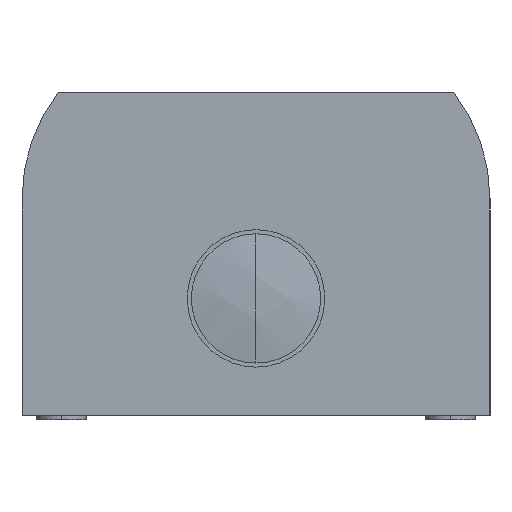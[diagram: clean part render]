
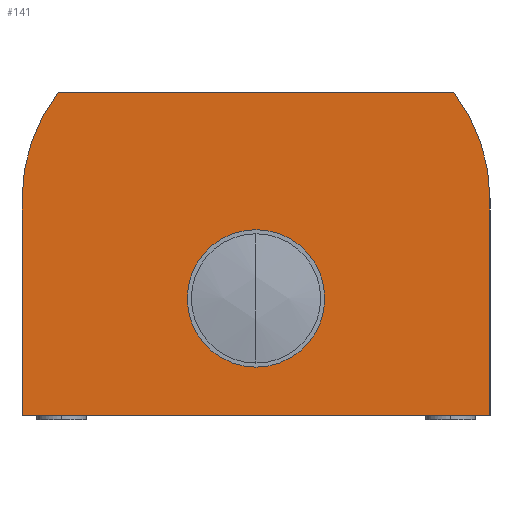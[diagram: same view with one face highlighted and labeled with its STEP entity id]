
A CAD part, left-side view. The second image highlights one B-rep face of the part: STEP entity #141.
In plain terms, the highlighted planar face has unit normal (-1, 0, 0).
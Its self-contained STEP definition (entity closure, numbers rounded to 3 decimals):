
#141 = ADVANCED_FACE( '', ( #294, #295 ), #296, .F. );
#294 = FACE_BOUND( '', #450, .T. );
#295 = FACE_OUTER_BOUND( '', #451, .T. );
#296 = PLANE( '', #452 );
#450 = EDGE_LOOP( '', ( #926, #927 ) );
#451 = EDGE_LOOP( '', ( #928, #929, #930, #931, #932, #933 ) );
#452 = AXIS2_PLACEMENT_3D( '', #934, #935, #936 );
#926 = ORIENTED_EDGE( '', *, *, #1067, .T. );
#927 = ORIENTED_EDGE( '', *, *, #958, .T. );
#928 = ORIENTED_EDGE( '', *, *, #1074, .F. );
#929 = ORIENTED_EDGE( '', *, *, #1090, .F. );
#930 = ORIENTED_EDGE( '', *, *, #1087, .F. );
#931 = ORIENTED_EDGE( '', *, *, #1084, .F. );
#932 = ORIENTED_EDGE( '', *, *, #1081, .F. );
#933 = ORIENTED_EDGE( '', *, *, #1078, .F. );
#934 = CARTESIAN_POINT( '', ( -60., 0., 0. ) );
#935 = DIRECTION( '', ( 1., 0., 0. ) );
#936 = DIRECTION( '', ( 0., 0., -1. ) );
#958 = EDGE_CURVE( '', #1107, #1111, #1113, .T. );
#1067 = EDGE_CURVE( '', #1111, #1107, #1295, .T. );
#1074 = EDGE_CURVE( '', #1304, #1305, #1306, .T. );
#1078 = EDGE_CURVE( '', #1305, #1312, #1313, .T. );
#1081 = EDGE_CURVE( '', #1312, #1317, #1318, .T. );
#1084 = EDGE_CURVE( '', #1317, #1322, #1323, .T. );
#1087 = EDGE_CURVE( '', #1322, #1327, #1328, .T. );
#1090 = EDGE_CURVE( '', #1327, #1304, #1332, .T. );
#1107 = VERTEX_POINT( '', #1351 );
#1111 = VERTEX_POINT( '', #1356 );
#1113 = CIRCLE( '', #1359, 11.75 );
#1295 = CIRCLE( '', #1585, 11.75 );
#1304 = VERTEX_POINT( '', #1594 );
#1305 = VERTEX_POINT( '', #1595 );
#1306 = CIRCLE( '', #1596, 30. );
#1312 = VERTEX_POINT( '', #1604 );
#1313 = LINE( '', #1605, #1606 );
#1317 = VERTEX_POINT( '', #1612 );
#1318 = LINE( '', #1613, #1614 );
#1322 = VERTEX_POINT( '', #1620 );
#1323 = LINE( '', #1621, #1622 );
#1327 = VERTEX_POINT( '', #1628 );
#1328 = CIRCLE( '', #1629, 30. );
#1332 = LINE( '', #1634, #1635 );
#1351 = CARTESIAN_POINT( '', ( -60., -11.75, -35.25 ) );
#1356 = CARTESIAN_POINT( '', ( -60., 11.75, -35.25 ) );
#1359 = AXIS2_PLACEMENT_3D( '', #1660, #1661, #1662 );
#1585 = AXIS2_PLACEMENT_3D( '', #1899, #1900, #1901 );
#1594 = CARTESIAN_POINT( '', ( -60., -33.81, 0. ) );
#1595 = CARTESIAN_POINT( '', ( -60., -40., -18.25 ) );
#1596 = AXIS2_PLACEMENT_3D( '', #1920, #1921, #1922 );
#1604 = CARTESIAN_POINT( '', ( -60., -40., -55.3 ) );
#1605 = CARTESIAN_POINT( '', ( -60., -40., -18.25 ) );
#1606 = VECTOR( '', #1928, 1. );
#1612 = CARTESIAN_POINT( '', ( -60., 40., -55.3 ) );
#1613 = CARTESIAN_POINT( '', ( -60., -40., -55.3 ) );
#1614 = VECTOR( '', #1931, 1. );
#1620 = CARTESIAN_POINT( '', ( -60., 40., -18.25 ) );
#1621 = CARTESIAN_POINT( '', ( -60., 40., -55.3 ) );
#1622 = VECTOR( '', #1934, 1. );
#1628 = CARTESIAN_POINT( '', ( -60., 33.81, 0. ) );
#1629 = AXIS2_PLACEMENT_3D( '', #1937, #1938, #1939 );
#1634 = CARTESIAN_POINT( '', ( -60., 33.81, 0. ) );
#1635 = VECTOR( '', #1944, 1. );
#1660 = CARTESIAN_POINT( '', ( -60., 0., -35.25 ) );
#1661 = DIRECTION( '', ( 1., 0., 0. ) );
#1662 = DIRECTION( '', ( 0., -1., 0. ) );
#1899 = CARTESIAN_POINT( '', ( -60., 0., -35.25 ) );
#1900 = DIRECTION( '', ( 1., 0., 0. ) );
#1901 = DIRECTION( '', ( 0., -1., 0. ) );
#1920 = CARTESIAN_POINT( '', ( -60., -10., -18.25 ) );
#1921 = DIRECTION( '', ( 1., 0., 0. ) );
#1922 = DIRECTION( '', ( 0., -0.794, 0.608 ) );
#1928 = DIRECTION( '', ( 0., 0., -1. ) );
#1931 = DIRECTION( '', ( 0., 1., 0. ) );
#1934 = DIRECTION( '', ( 0., 0., 1. ) );
#1937 = CARTESIAN_POINT( '', ( -60., 10., -18.25 ) );
#1938 = DIRECTION( '', ( 1., 0., 0. ) );
#1939 = DIRECTION( '', ( 0., 1., 0. ) );
#1944 = DIRECTION( '', ( 0., -1., 0. ) );
